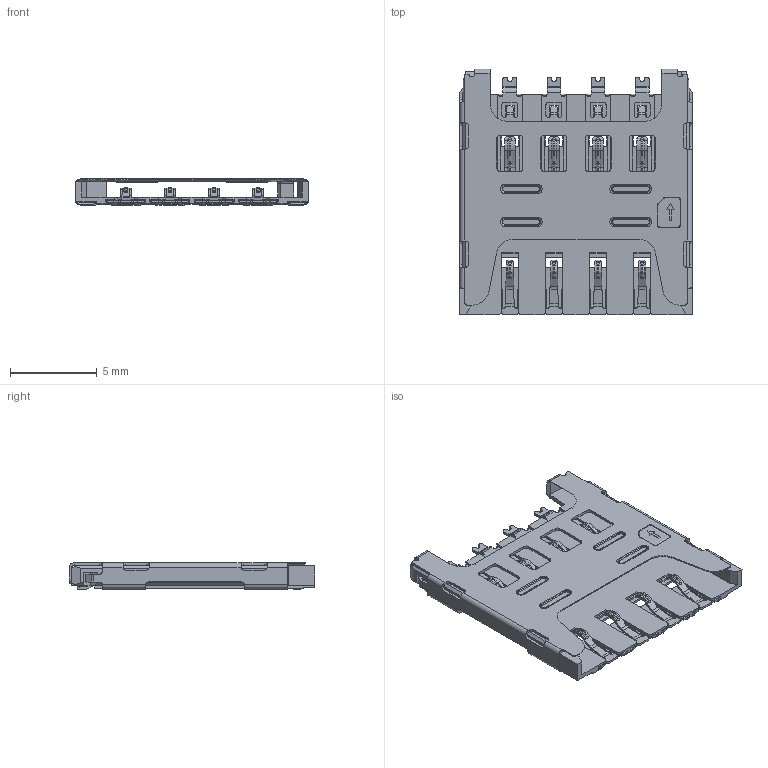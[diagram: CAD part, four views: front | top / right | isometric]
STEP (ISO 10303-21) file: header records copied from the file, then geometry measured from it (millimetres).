
FILE_DESCRIPTION((''),'2;1');
FILE_NAME('MICRO-SIM_1050805AR001','2018-09-08T',('Administrator'),(''),'PRO/ENGINEER BY PARAMETRIC TECHNOLOGY CORPORATION, 2010280','PRO/ENGINEER BY PARAMETRIC TECHNOLOGY CORPORATION, 2010280','');
FILE_SCHEMA(('CONFIG_CONTROL_DESIGN'));
Products named in the file (1): MICRO-SIM_1050805AR001
Bounding box: 13.4 x 14.15 x 1.5 mm (x, y, z)
Volume: 83.5 mm3; surface area: 833.1 mm2
Topology: 1 solids, 2 shells, 1849 faces, 5103 edges, 3214 vertices
Faces by surface type: plane 1001, cylinder 681, bspline 84, torus 69, cone 14
Entity records: 61283 total; most frequent: CARTESIAN_POINT 13644, ORIENTED_EDGE 10206, DIRECTION 9846, EDGE_CURVE 5103, VECTOR 3448, LINE 3448, VERTEX_POINT 3214, AXIS2_PLACEMENT_3D 3199
